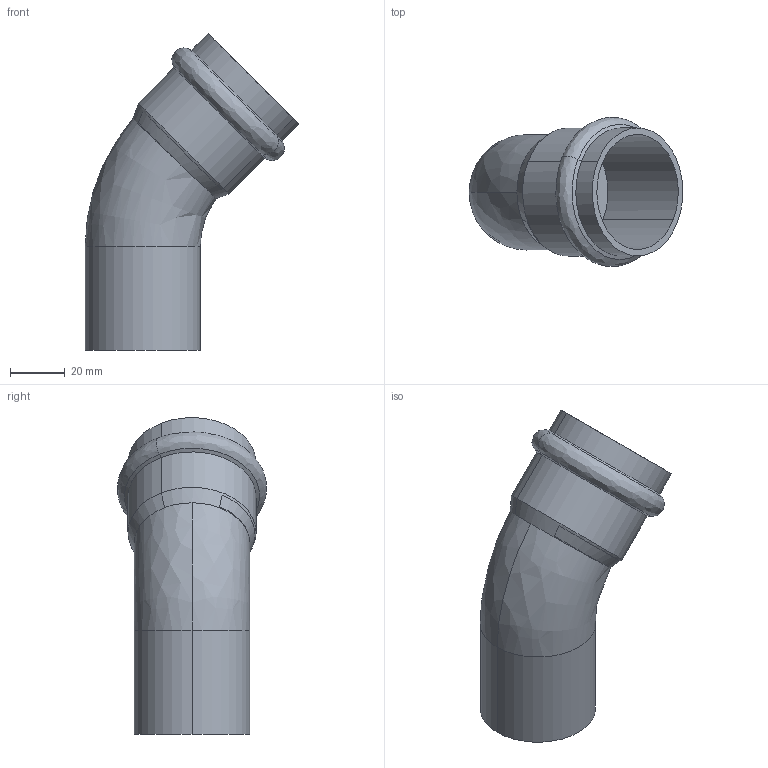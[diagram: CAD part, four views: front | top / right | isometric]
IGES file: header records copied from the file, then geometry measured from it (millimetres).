
Start section: 3D InterOp IGES (Version 26 1 0), Spatial Corp. Copyright (c) 1999-2007.
Global section: file name: pim0001306.igs; native system: Spatial Corp.; preprocessor: 3D InterOp ACIS/IGES; author: cad-pim; organization: TransMagic, Inc.; date: 20170130.140502; units: millimetre
Bounding box: 77.92 x 54.4 x 115.54 mm (x, y, z)
Volume: 123867.5 mm3; surface area: 24264.3 mm2
Topology: 1 solids, 1 shells, 21 faces, 45 edges, 27 vertices
Faces by surface type: bspline 21
